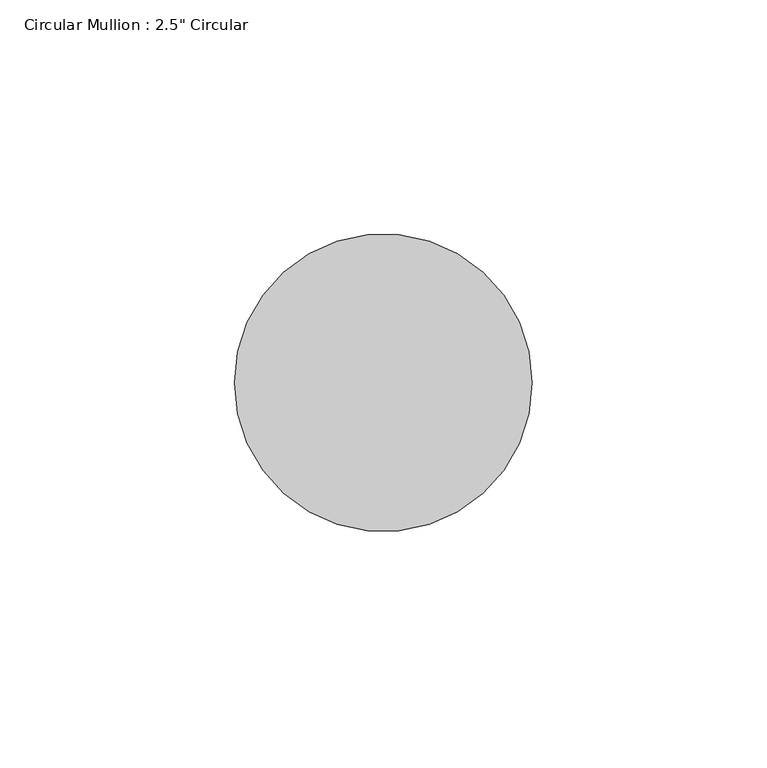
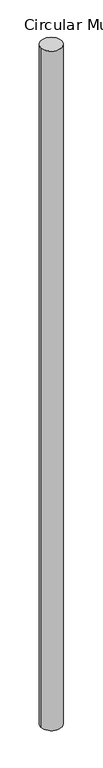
"""IFC4 building model written with IfcOpenShell, lengths in millimetres: member geometry."""

from ifc_helpers import new_model, si_unit, point, frame, origin, origin_2d, place, context, project, spatial, circle_curve, trimmed, segment, composite_curve, outline, extrude, source, transform, mapped, element, save


def member_196592cd(model_context):
    return source(origin(), model_context, "Body", "SweptSolid", [
        extrude(outline(composite_curve([segment(trimmed(circle_curve(origin_2d(), 31.75), [point((31.75, 0.0))], [point((-31.75, 0.0))], False, "CARTESIAN"), True, "CONTINUOUS"), segment(trimmed(circle_curve(origin_2d(), 31.75), [point((-31.75, 0.0))], [point((31.75, 0.0))], False, "CARTESIAN"), True, "CONTINUOUS")], self_intersect=False)), frame((0.0, 0.0, -2193.6835864), z_axis=(0.0, 0.0, 1.0), x_axis=(1.0, 0.0, 0.0)), (0.0, 0.0, 1.0), 2193.6835864),
    ])


if __name__ == "__main__":
    model = new_model("IFC4")
    model_context = context("Model", 3, world=origin())
    ifc_project = project(units=[si_unit("LENGTHUNIT", "METRE", prefix="MILLI")], contexts=[model_context])
    site = spatial("IfcSite", under=ifc_project)
    building = spatial("IfcBuilding", under=site)
    placement = place(None, origin())
    member_shape = member_196592cd(model_context)
    element("IfcMember", 1, ObjectType="Circular Mullion : 2.5\" Circular", at=placement, inside=building, context=model_context, shape_type="MappedRepresentation", body=[
        mapped(member_shape, transform((0.0, 0.0, 0.0), x_axis=(1.0, 0.0, 0.0), y_axis=(0.0, 1.0, 0.0), z_axis=(0.0, 0.0, 1.0))),
    ])
    save(model, "model.ifc")
